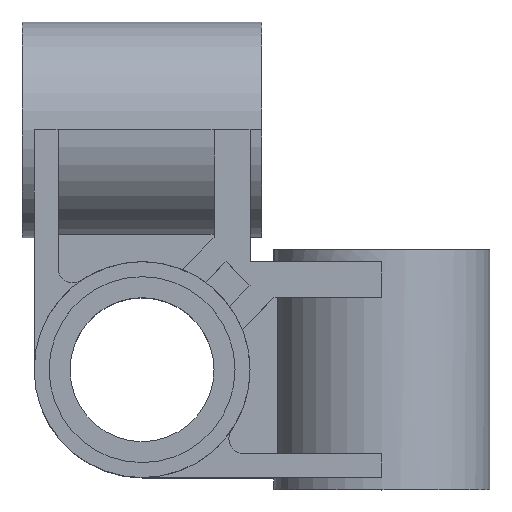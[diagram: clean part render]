
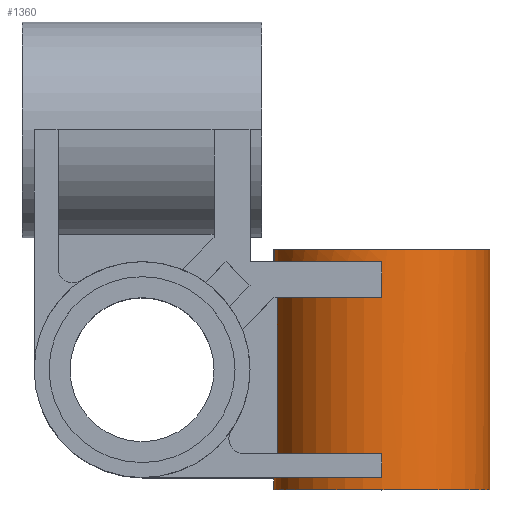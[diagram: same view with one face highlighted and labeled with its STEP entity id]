
A CAD part, top view. The second image highlights one B-rep face of the part: STEP entity #1360.
In plain terms, the highlighted cylindrical face has radius 3.6 mm (diameter 7.2 mm), a full revolution.
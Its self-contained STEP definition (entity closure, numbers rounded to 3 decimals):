
#21=ELLIPSE('',#1492,3.929,3.6);
#23=CYLINDRICAL_SURFACE('',#1485,3.6);
#63=CIRCLE('',#1473,3.6);
#67=CIRCLE('',#1479,3.6);
#71=CIRCLE('',#1486,3.6);
#72=CIRCLE('',#1487,3.6);
#73=CIRCLE('',#1488,3.6);
#74=CIRCLE('',#1489,3.6);
#75=CIRCLE('',#1490,3.6);
#76=CIRCLE('',#1491,3.6);
#77=CIRCLE('',#1493,3.6);
#215=ORIENTED_EDGE('',*,*,#593,.T.);
#216=ORIENTED_EDGE('',*,*,#594,.T.);
#217=ORIENTED_EDGE('',*,*,#506,.T.);
#218=ORIENTED_EDGE('',*,*,#595,.T.);
#219=ORIENTED_EDGE('',*,*,#596,.T.);
#220=ORIENTED_EDGE('',*,*,#597,.F.);
#221=ORIENTED_EDGE('',*,*,#494,.T.);
#222=ORIENTED_EDGE('',*,*,#598,.T.);
#223=ORIENTED_EDGE('',*,*,#520,.F.);
#224=ORIENTED_EDGE('',*,*,#599,.F.);
#225=ORIENTED_EDGE('',*,*,#600,.F.);
#226=ORIENTED_EDGE('',*,*,#601,.T.);
#227=ORIENTED_EDGE('',*,*,#527,.F.);
#228=ORIENTED_EDGE('',*,*,#585,.F.);
#229=ORIENTED_EDGE('',*,*,#602,.T.);
#230=ORIENTED_EDGE('',*,*,#575,.T.);
#231=ORIENTED_EDGE('',*,*,#603,.T.);
#494=EDGE_CURVE('',#689,#690,#821,.T.);
#506=EDGE_CURVE('',#702,#701,#829,.T.);
#520=EDGE_CURVE('',#715,#716,#839,.T.);
#527=EDGE_CURVE('',#722,#723,#844,.T.);
#575=EDGE_CURVE('',#763,#764,#63,.T.);
#585=EDGE_CURVE('',#770,#722,#67,.T.);
#593=EDGE_CURVE('',#764,#777,#888,.T.);
#594=EDGE_CURVE('',#777,#702,#71,.T.);
#595=EDGE_CURVE('',#701,#778,#72,.T.);
#596=EDGE_CURVE('',#778,#779,#889,.T.);
#597=EDGE_CURVE('',#689,#779,#73,.T.);
#598=EDGE_CURVE('',#690,#716,#74,.T.);
#599=EDGE_CURVE('',#780,#715,#75,.T.);
#600=EDGE_CURVE('',#781,#780,#890,.T.);
#601=EDGE_CURVE('',#781,#723,#76,.T.);
#602=EDGE_CURVE('',#770,#763,#21,.T.);
#603=EDGE_CURVE('',#782,#782,#77,.T.);
#689=VERTEX_POINT('',#2008);
#690=VERTEX_POINT('',#2009);
#701=VERTEX_POINT('',#2033);
#702=VERTEX_POINT('',#2035);
#715=VERTEX_POINT('',#2062);
#716=VERTEX_POINT('',#2064);
#722=VERTEX_POINT('',#2079);
#723=VERTEX_POINT('',#2080);
#763=VERTEX_POINT('',#2175);
#764=VERTEX_POINT('',#2176);
#770=VERTEX_POINT('',#2193);
#777=VERTEX_POINT('',#2212);
#778=VERTEX_POINT('',#2215);
#779=VERTEX_POINT('',#2217);
#780=VERTEX_POINT('',#2221);
#781=VERTEX_POINT('',#2223);
#782=VERTEX_POINT('',#2227);
#821=LINE('',#2007,#950);
#829=LINE('',#2034,#958);
#839=LINE('',#2063,#968);
#844=LINE('',#2078,#973);
#888=LINE('',#2211,#1017);
#889=LINE('',#2216,#1018);
#890=LINE('',#2222,#1019);
#950=VECTOR('',#1586,1000.);
#958=VECTOR('',#1606,1000.);
#968=VECTOR('',#1626,1000.);
#973=VECTOR('',#1639,1000.);
#1017=VECTOR('',#1751,1000.);
#1018=VECTOR('',#1756,1000.);
#1019=VECTOR('',#1763,1000.);
#1099=EDGE_LOOP('',(#215,#216,#217,#218,#219,#220,#221,#222,#223,#224,#225,
#226,#227,#228,#229,#230));
#1100=EDGE_LOOP('',(#231));
#1200=FACE_BOUND('',#1099,.T.);
#1201=FACE_BOUND('',#1100,.T.);
#1360=ADVANCED_FACE('',(#1200,#1201),#23,.T.);
#1473=AXIS2_PLACEMENT_3D('',#2174,#1715,#1716);
#1479=AXIS2_PLACEMENT_3D('',#2194,#1733,#1734);
#1485=AXIS2_PLACEMENT_3D('',#2210,#1749,#1750);
#1486=AXIS2_PLACEMENT_3D('',#2213,#1752,#1753);
#1487=AXIS2_PLACEMENT_3D('',#2214,#1754,#1755);
#1488=AXIS2_PLACEMENT_3D('',#2218,#1757,#1758);
#1489=AXIS2_PLACEMENT_3D('',#2219,#1759,#1760);
#1490=AXIS2_PLACEMENT_3D('',#2220,#1761,#1762);
#1491=AXIS2_PLACEMENT_3D('',#2224,#1764,#1765);
#1492=AXIS2_PLACEMENT_3D('',#2225,#1766,#1767);
#1493=AXIS2_PLACEMENT_3D('',#2226,#1768,#1769);
#1586=DIRECTION('',(0.,-1.,0.));
#1606=DIRECTION('',(0.,-1.,0.));
#1626=DIRECTION('',(0.,-1.,0.));
#1639=DIRECTION('',(0.,-1.,0.));
#1715=DIRECTION('',(0.,-1.,0.));
#1716=DIRECTION('',(1.,0.,0.));
#1733=DIRECTION('',(0.,1.,0.));
#1734=DIRECTION('',(-1.,0.,0.));
#1749=DIRECTION('',(0.,1.,0.));
#1750=DIRECTION('',(-1.,0.,0.));
#1751=DIRECTION('',(0.,-1.,0.));
#1752=DIRECTION('',(0.,1.,0.));
#1753=DIRECTION('',(0.,0.,-1.));
#1754=DIRECTION('',(0.,-1.,0.));
#1755=DIRECTION('',(1.,0.,0.));
#1756=DIRECTION('',(0.,-1.,0.));
#1757=DIRECTION('',(0.,-1.,0.));
#1758=DIRECTION('',(1.,0.,0.));
#1759=DIRECTION('',(0.,-1.,0.));
#1760=DIRECTION('',(1.,0.,0.));
#1761=DIRECTION('',(0.,-1.,0.));
#1762=DIRECTION('',(1.,0.,0.));
#1763=DIRECTION('',(0.,-1.,0.));
#1764=DIRECTION('',(0.,-1.,0.));
#1765=DIRECTION('',(1.,0.,0.));
#1766=DIRECTION('',(0.,-0.916,0.401));
#1767=DIRECTION('',(0.,0.401,0.916));
#1768=DIRECTION('',(0.,1.,0.));
#1769=DIRECTION('',(-1.,0.,0.));
#2007=CARTESIAN_POINT('',(8.,3.2,7.6));
#2008=CARTESIAN_POINT('',(8.,-2.8,7.6));
#2009=CARTESIAN_POINT('',(8.,-3.6,7.6));
#2033=CARTESIAN_POINT('',(8.,2.4,7.6));
#2034=CARTESIAN_POINT('',(8.,3.2,7.6));
#2035=CARTESIAN_POINT('',(8.,3.6,7.6));
#2062=CARTESIAN_POINT('',(8.,-2.8,0.4));
#2063=CARTESIAN_POINT('',(8.,3.2,0.4));
#2064=CARTESIAN_POINT('',(8.,-3.6,0.4));
#2078=CARTESIAN_POINT('',(8.,3.2,0.4));
#2079=CARTESIAN_POINT('',(8.,3.2,0.4));
#2080=CARTESIAN_POINT('',(8.,2.4,0.4));
#2174=CARTESIAN_POINT('',(8.,4.,4.));
#2175=CARTESIAN_POINT('',(11.6,4.,4.));
#2176=CARTESIAN_POINT('',(4.417,4.,4.35));
#2193=CARTESIAN_POINT('',(11.1,3.2,2.17));
#2194=CARTESIAN_POINT('',(8.,3.2,4.));
#2210=CARTESIAN_POINT('',(8.,3.2,4.));
#2211=CARTESIAN_POINT('',(4.417,4.,4.35));
#2212=CARTESIAN_POINT('',(4.417,3.6,4.35));
#2213=CARTESIAN_POINT('',(8.,3.6,4.));
#2214=CARTESIAN_POINT('',(8.,2.4,4.));
#2215=CARTESIAN_POINT('',(4.514,2.4,4.9));
#2216=CARTESIAN_POINT('',(4.514,2.4,4.9));
#2217=CARTESIAN_POINT('',(4.514,-2.8,4.9));
#2218=CARTESIAN_POINT('',(8.,-2.8,4.));
#2219=CARTESIAN_POINT('',(8.,-3.6,4.));
#2220=CARTESIAN_POINT('',(8.,-2.8,4.));
#2221=CARTESIAN_POINT('',(4.514,-2.8,3.1));
#2222=CARTESIAN_POINT('',(4.514,2.4,3.1));
#2223=CARTESIAN_POINT('',(4.514,2.4,3.1));
#2224=CARTESIAN_POINT('',(8.,2.4,4.));
#2225=CARTESIAN_POINT('',(8.,4.,4.));
#2226=CARTESIAN_POINT('',(8.,-4.,4.));
#2227=CARTESIAN_POINT('',(4.4,-4.,4.));
